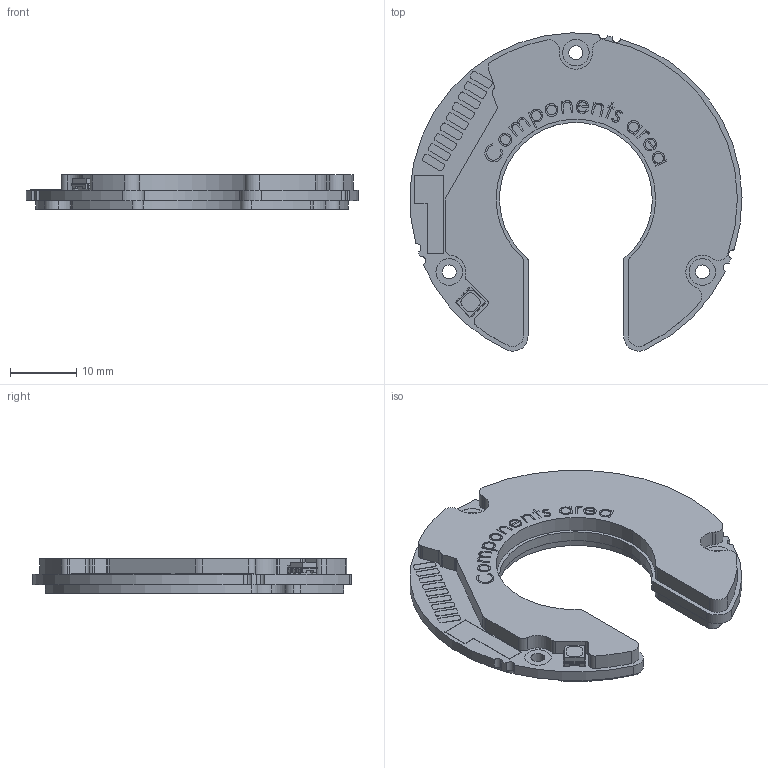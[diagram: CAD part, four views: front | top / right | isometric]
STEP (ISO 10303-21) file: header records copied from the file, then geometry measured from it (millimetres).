
FILE_DESCRIPTION (( 'STEP AP214' ), '1' );
FILE_NAME ('Orbis_BR20_BBM_brez_PVL_v00_soldering_pads.STEP', '2025-05-19T13:34:39', ( '' ), ( '' ), 'SwSTEP 2.0', 'SolidWorks 2024', '' );
FILE_SCHEMA (( 'AUTOMOTIVE_DESIGN' ));
Length unit declared in the file: millimetre
Products named in the file (1): Orbis_BR20_BBM_brez_PVL_v00_soldering_pads
Bounding box: 49.96 x 47.9 x 5.15 mm (x, y, z)
Volume: 5633 mm3; surface area: 3922.7 mm2
Topology: 1 solids, 1 shells, 1012 faces, 2874 edges, 1912 vertices
Faces by surface type: plane 646, bspline 249, cylinder 117
Entity records: 44215 total; most frequent: CARTESIAN_POINT 19275, ORIENTED_EDGE 5748, DIRECTION 3937, EDGE_CURVE 2874, LINE 1941, VECTOR 1941, VERTEX_POINT 1912, EDGE_LOOP 1088
